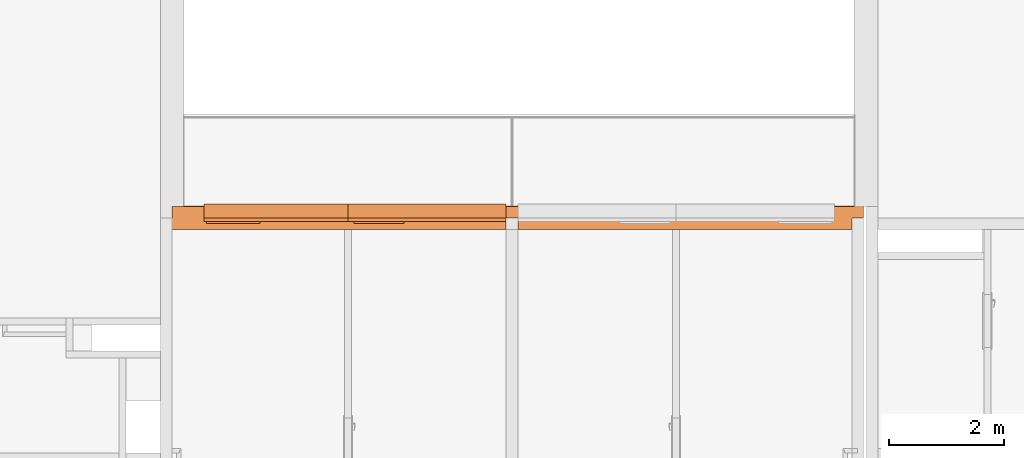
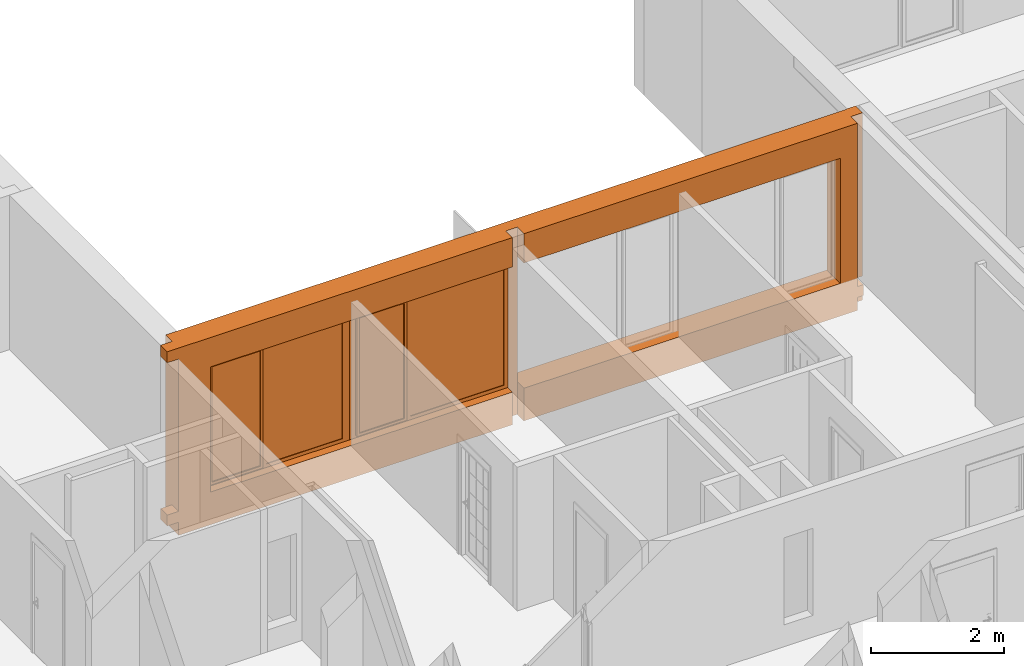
# One storey, part 48 of 67: 3 proxies, 4 openings.
"""IFC2X3 building model written with IfcOpenShell, lengths in millimetres."""

from ifc_helpers import new_model, entity, si_unit, converted_unit, derived_unit, money_unit, direction, frame, origin_with_axes, origin_2d_with_axis, place, context, subcontext, project, spatial, rectangle, extrude, open_shell, faceted_brep, surface_model, source, transform, mapped, material, material_list, type_object, element, fill, save


model = new_model("IFC2X3")

# Units and contexts
model_context = context("Model", 3, precision=0.01, world=origin_with_axes(), true_north=direction((0.34421633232, 0.938890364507)))
body_context = subcontext(model_context, "Body", "Model", "MODEL_VIEW")
ifc_project = project(units=[si_unit("LENGTHUNIT", "METRE", prefix="MILLI"), si_unit("AREAUNIT", "SQUARE_METRE"), si_unit("VOLUMEUNIT", "CUBIC_METRE"), converted_unit("PLANEANGLEUNIT", "DEGREE", entity("IfcPlaneAngleMeasure", 0.0174532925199), si_unit("PLANEANGLEUNIT", "RADIAN"), dimensions=[0, 0, 0, 0, 0, 0, 0]), si_unit("SOLIDANGLEUNIT", "STERADIAN"), money_unit("USD"), converted_unit("TIMEUNIT", "Year", entity("IfcTimeMeasure", 31556926.0), si_unit("TIMEUNIT", "SECOND"), dimensions=[0, 0, 1, 0, 0, 0, 0]), si_unit("MASSUNIT", "GRAM", prefix="KILO"), si_unit("THERMODYNAMICTEMPERATUREUNIT", "DEGREE_CELSIUS"), si_unit("LUMINOUSINTENSITYUNIT", "LUMEN"), si_unit("ENERGYUNIT", "JOULE", prefix="MEGA"), derived_unit("THERMALCONDUCTANCEUNIT", [(si_unit("POWERUNIT", "WATT"), 1), (si_unit("LENGTHUNIT", "METRE"), -1), (si_unit("THERMODYNAMICTEMPERATUREUNIT", "KELVIN"), -1)]), derived_unit("SPECIFICHEATCAPACITYUNIT", [(si_unit("ENERGYUNIT", "JOULE"), 1), (si_unit("MASSUNIT", "GRAM", prefix="KILO"), -1), (si_unit("THERMODYNAMICTEMPERATUREUNIT", "KELVIN"), -1)]), derived_unit("MASSDENSITYUNIT", [(si_unit("MASSUNIT", "GRAM", prefix="KILO"), 1), (si_unit("VOLUMEUNIT", "CUBIC_METRE"), -1)])], contexts=[model_context])

# Site, building, storey
site_placement = place(None, origin_with_axes())
site = spatial("IfcSite", under=ifc_project, at=site_placement, Name="USTRONIE MORSKIE", CompositionType="ELEMENT")
building_placement = place(site_placement, origin_with_axes())
building = spatial("IfcBuilding", under=site, at=building_placement, Name="Budynek", CompositionType="ELEMENT")
storey_placement = place(building_placement, frame((0.0, 0.0, 4000.0), z_axis=(0.0, 0.0, 1.0), x_axis=(1.0, 0.0, 0.0)))
storey = spatial("IfcBuildingStorey", under=building, at=storey_placement, Name="PIĘTRO 1", CompositionType="ELEMENT", Elevation=4000.0)

# Proxies, openings
ifc_material_1 = material(Name="Beton konstrukcyjny B25")
ifc_material_2 = material(Name="Wełna ELEW")
ifc_material_3 = material(Name="Tynk zewnętrzny")
ifc_material_list = material_list([ifc_material_1, ifc_material_2, ifc_material_3])
building_element_proxy_type_1 = type_object("IfcBuildingElementProxyType", Name="20+20 410", PredefinedType="NOTDEFINED")
proxy_1_placement = place(storey_placement, frame((408317.920919, 744701.199322, -600.0), z_axis=(0.0, 0.0, 1.0), x_axis=(-1.0, -2.51059854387e-08, 0.0)))
proxy_1 = element("IfcBuildingElementProxy", 1, at=proxy_1_placement, inside=storey, type_object=building_element_proxy_type_1, material=ifc_material_list, Name="SZ-01", context=body_context, shape_type="Brep", body=[
    faceted_brep([(12100.0000025, 99.9719298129, 3440.0), (6100.00000251, 99.9855996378, 3440.0), (6099.99999749, -100.000153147, 3440.0), (12099.9999975, -100.000303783, 3440.0), (6100.00000251, 99.9855996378, 3240.0), (12100.0001248, 99.9719298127, 3240.0), (11900.0001248, 99.9723854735, 3240.0), (6100.00000251, 99.9998468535, 3240.0), (6100.00000251, 99.9998468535, 440.0), (6100.00000251, 99.9855996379, 440.0), (6100.00000251, 99.9855996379, 240.0), (6100.00000251, 99.9998468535, 240.0), (6100.00000251, 99.9998468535, 0.0), (6099.99999749, -100.000153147, 0.0), (11899.9999975, -100.000298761, 0.0), (11899.9999975, -100.000298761, 240.0), (12099.9999975, -100.000303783, 240.0), (12099.9998752, -100.000303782, 440.0), (11899.9998752, -100.000298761, 440.0), (11899.9998752, -100.000298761, 3240.0), (12099.9998752, -100.000303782, 3240.0), (11900.0001248, 99.9997012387, 3240.0), (11900.0001248, 99.9997012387, 440.0), (11900.0001248, 99.9723854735, 440.0), (11900.0000025, 99.9723854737, 240.0), (12100.0001248, 99.9719298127, 440.0), (12100.0000025, 99.9719298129, 240.0), (11900.0000025, 99.9997012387, 240.0), (11900.0000025, 99.9997012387, 0.0)], [[[0, 1, 2, 3]], [[4, 1, 0, 5, 6]], [[4, 7, 8, 9, 10, 11, 12, 13, 2, 1]], [[13, 14, 15, 16, 17, 18, 19, 20, 3, 2]], [[5, 0, 3, 20]], [[6, 5, 20, 19]], [[7, 4, 6, 21]], [[7, 21, 22, 8]], [[23, 9, 8, 22]], [[24, 10, 9, 23, 25, 26]], [[27, 11, 10, 24]], [[12, 11, 27, 28]], [[28, 14, 13, 12]], [[28, 27, 24, 15, 14]], [[15, 24, 26, 16]], [[16, 26, 25, 17]], [[17, 25, 23, 18]], [[21, 6, 19, 18, 23, 22]]]),
    faceted_brep([(99.9999974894, -100.000002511, 0.0), (5899.99999749, -100.000148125, 0.0), (5899.99999749, -100.000148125, 3440.0), (99.9999974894, -100.000002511, 3440.0), (99.9999974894, -100.000002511, 440.0), (5.27222709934e-06, -100.0, 440.0), (5.27222709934e-06, -100.0, 240.0), (99.9999974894, -100.000002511, 240.0), (5900.00000251, 99.9998518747, 0.0), (100.000002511, 99.9999974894, 0.0), (5900.00000251, 99.9998518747, 3440.0), (100.000002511, 99.9999974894, 3440.0), (100.000002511, 99.9999974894, 440.0), (1.0293433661e-05, 100.0, 440.0), (1.0293433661e-05, 100.0, 240.0), (100.000002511, 99.9999974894, 240.0)], [[[0, 1, 2, 3, 4, 5, 6, 7]], [[8, 1, 0, 9]], [[1, 8, 10, 2]], [[11, 3, 2, 10]], [[11, 12, 4, 3]], [[4, 12, 13, 5]], [[14, 6, 5, 13]], [[14, 15, 7, 6]], [[15, 9, 0, 7]], [[12, 11, 10, 8, 9, 15, 14, 13]]]),
    faceted_brep([(11899.9999925, -300.000298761, 3440.0), (-100.000007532, -299.999997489, 3440.0), (-100.000007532, -299.999997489, 440.0), (2.51020537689e-07, -300.0, 440.0), (2.51020537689e-07, -300.0, 240.0), (-100.000007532, -299.999997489, 240.0), (-100.000007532, -299.999997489, 0.0), (11899.9999925, -300.000298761, 0.0), (-100.000002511, -99.9999974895, 3440.0), (11899.9999975, -100.000298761, 3440.0), (-100.000002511, -99.9999974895, 440.0), (5.27222709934e-06, -100.0, 440.0), (5.27222709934e-06, -100.0, 240.0), (-100.000002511, -99.9999974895, 240.0), (-100.000002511, -99.9999974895, 0.0), (11899.9999975, -100.000298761, 0.0)], [[[0, 1, 2, 3, 4, 5, 6, 7]], [[8, 1, 0, 9]], [[2, 1, 8, 10]], [[10, 11, 3, 2]], [[3, 11, 12, 4]], [[5, 4, 12, 13]], [[13, 14, 6, 5]], [[6, 14, 15, 7]], [[0, 7, 15, 9]], [[10, 8, 9, 15, 14, 13, 12, 11]]]),
    faceted_brep([(11699.9997134, -310.00029374, 3240.0), (49.9999922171, -310.000001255, 3240.0), (49.9999922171, -310.000001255, 3440.0), (-100.000007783, -309.999997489, 3440.0), (-100.000007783, -309.999997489, 440.0), (0.0, -310.0, 440.0), (0.0, -310.0, 240.0), (-100.000007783, -309.999997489, 240.0), (-100.000007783, -309.999997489, 0.0), (11699.9999922, -310.00029374, 0.0), (11699.9999922, -310.00029374, 130.0), (49.9999922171, -310.000001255, 130.0), (49.9999922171, -310.000001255, 330.0), (49.9999922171, -310.000001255, 335.0), (49.9999922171, -310.000001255, 485.0), (49.9999922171, -310.000001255, 545.0), (49.9999922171, -310.000001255, 570.0), (11699.9999922, -310.00029374, 570.0), (11699.9997137, -300.013449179, 3240.0), (49.9999924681, -299.999863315, 3240.0), (49.9999924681, -299.999863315, 3440.0), (-100.000007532, -299.999997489, 3440.0), (-100.000007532, -299.999997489, 440.0), (2.51020537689e-07, -300.0, 440.0), (2.51020537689e-07, -300.0, 240.0), (-100.000007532, -299.999997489, 240.0), (-100.000007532, -299.999997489, 0.0), (11699.9999925, -300.00029374, 0.0), (11699.9999925, -300.000190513, 130.0), (49.9999924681, -300.000001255, 130.0), (49.9999924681, -300.000001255, 330.0), (49.9999924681, -300.000001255, 335.0), (49.9999924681, -300.000001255, 485.0), (49.9999924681, -300.000001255, 545.0), (49.9999924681, -300.000001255, 570.0), (11699.9999925, -300.000190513, 570.0)], [[[0, 1, 2, 3, 4, 5, 6, 7, 8, 9, 10, 11, 12, 13, 14, 15, 16, 17]], [[1, 0, 18, 19]], [[20, 2, 1, 19]], [[2, 20, 21, 3]], [[21, 22, 4, 3]], [[23, 5, 4, 22]], [[24, 6, 5, 23]], [[24, 25, 7, 6]], [[8, 7, 25, 26]], [[27, 9, 8, 26]], [[27, 28, 10, 9]], [[29, 11, 10, 28]], [[30, 12, 11, 29]], [[13, 12, 30, 31]], [[13, 31, 32, 14]], [[32, 33, 15, 14]], [[34, 16, 15, 33]], [[35, 17, 16, 34]], [[18, 0, 17, 35]], [[34, 19, 18]], [[19, 21, 20]], [[21, 23, 22]], [[19, 24, 23]], [[24, 26, 25]], [[26, 29, 27]], [[27, 29, 28]], [[26, 30, 29]], [[26, 31, 30]], [[24, 32, 31]], [[32, 24, 33]], [[33, 24, 34]], [[34, 18, 35]], [[34, 24, 19]], [[19, 23, 21]], [[24, 31, 26]]]),
])
opening_1_placement = place(proxy_1_placement, frame((10100.0109253, 0.0, 600.0), z_axis=(0.0, 0.0, 1.0), x_axis=(1.0, 0.0, 0.0)))
opening_1 = element("IfcOpeningElement", 2, at=opening_1_placement, cuts=proxy_1, Name="Wz.05", context=body_context, shape_type="SweptSolid", body=[
    extrude(rectangle(XDim=2499.99239939, YDim=2300.0, at=origin_2d_with_axis()), frame((5.27228394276e-06, -100.000253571, 1150.0), z_axis=(2.51059854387e-08, 1.0, 0.0), x_axis=(1.0, -2.51059855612e-08, 0.0)), (0.0, 0.0, -1.0), 620.0),
    extrude(rectangle(XDim=2499.99239939, YDim=2300.0, at=origin_2d_with_axis()), frame((5.27228394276e-06, -100.000253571, 1150.0), z_axis=(-2.51059854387e-08, -1.0, 0.0), x_axis=(1.0, -2.51059855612e-08, 0.0)), (0.0, 0.0, -1.0), 610.0),
])
opening_2_placement = place(proxy_1_placement, frame((7475.01115408, 0.0, 600.0), z_axis=(0.0, 0.0, 1.0), x_axis=(1.0, 0.0, 0.0)))
opening_2 = element("IfcOpeningElement", 3, at=opening_2_placement, cuts=proxy_1, Name="Wz.05", context=body_context, shape_type="SweptSolid", body=[
    extrude(rectangle(XDim=2750.00714313, YDim=2300.0, at=origin_2d_with_axis()), frame((5.27222709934e-06, -100.000187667, 1150.0), z_axis=(2.51059854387e-08, 1.0, 0.0), x_axis=(1.0, -2.51059855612e-08, 0.0)), (0.0, 0.0, -1.0), 620.0),
    extrude(rectangle(XDim=2750.00714313, YDim=2300.0, at=origin_2d_with_axis()), frame((5.27222709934e-06, -100.000187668, 1150.0), z_axis=(-2.51059854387e-08, -1.0, 0.0), x_axis=(1.0, -2.51059855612e-08, 0.0)), (0.0, 0.0, -1.0), 610.0),
])
opening_3_placement = place(proxy_1_placement, frame((1774.99280613, 0.0, 600.0), z_axis=(0.0, 0.0, 1.0), x_axis=(1.0, 0.0, 0.0)))
element("IfcOpeningElement", 4, at=opening_3_placement, cuts=proxy_1, Name="Wz.05", context=body_context, shape_type="SweptSolid", body=[
    extrude(rectangle(XDim=2750.0001065, YDim=2300.0, at=origin_2d_with_axis()), frame((5.27222709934e-06, -100.000044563, 1150.0), z_axis=(-2.51059854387e-08, -1.0, 0.0), x_axis=(-1.0, 2.51059855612e-08, 0.0)), (0.0, 0.0, 1.0), 620.0),
    extrude(rectangle(XDim=2750.0001065, YDim=2300.0, at=origin_2d_with_axis()), frame((5.27222709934e-06, -100.000044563, 1150.0), z_axis=(2.51059854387e-08, 1.0, 0.0), x_axis=(-1.0, 2.51059855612e-08, 0.0)), (0.0, 0.0, 1.0), 610.0),
])
opening_4_placement = place(proxy_1_placement, frame((4524.99643095, 0.0, 600.0), z_axis=(0.0, 0.0, 1.0), x_axis=(1.0, 0.0, 0.0)))
element("IfcOpeningElement", 5, at=opening_4_placement, cuts=proxy_1, Name="Wz.05", context=body_context, shape_type="SweptSolid", body=[
    extrude(rectangle(XDim=2750.00714313, YDim=2300.0, at=origin_2d_with_axis()), frame((5.27222709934e-06, -100.000113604, 1150.0), z_axis=(-2.51059854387e-08, -1.0, 0.0), x_axis=(-1.0, 2.51059855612e-08, 0.0)), (0.0, 0.0, 1.0), 620.0),
    extrude(rectangle(XDim=2750.00714313, YDim=2300.0, at=origin_2d_with_axis()), frame((5.27222709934e-06, -100.000113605, 1150.0), z_axis=(2.51059854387e-08, 1.0, 0.0), x_axis=(-1.0, 2.51059855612e-08, 0.0)), (0.0, 0.0, 1.0), 610.0),
])
building_element_proxy_type_2 = type_object("IfcBuildingElementProxyType", Name="Okno podwójne 23", PredefinedType="NOTDEFINED")
shared_shape_1 = source(origin_with_axes(), body_context, "Body", "SurfaceModel", [
    surface_model("IfcShellBasedSurfaceModel", [(-1375.00357156, -61.0, 50.0), (-1375.00357156, -61.0, 40.0), (1375.00357156, -61.0, 40.0), (1375.00357156, -61.0, 50.0), (-1375.00357156, -300.0, 28.5714285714), (1375.00357156, -300.0, 28.5714285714), (-1375.00357156, -300.0, 8.57142857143), (1375.00357156, -300.0, 8.57142857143), (-1375.00357156, -290.0, 18.5714285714), (1375.00357156, -290.0, 18.5714285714)], [open_shell([[[0, 1, 2, 3]], [[1, 4, 5, 2]], [[4, 6, 7, 5]], [[6, 8, 9, 7]]])]),
    faceted_brep([(1250.00357156, -20.0, 2235.0), (1250.00357156, -60.0, 2235.0), (1375.00357156, -60.0, 2235.0), (1375.00357156, 0.0, 2235.0), (1270.00357156, 0.0, 2235.0), (1270.00357156, -20.0, 2235.0), (1250.00357156, -20.0, 65.0), (1250.00357156, -60.0, 65.0), (1375.00357156, -60.0, 65.0), (1375.00357156, 0.0, 65.0), (1270.00357156, 0.0, 65.0), (1270.00357156, -20.0, 65.0)], [[[0, 1, 2, 3, 4, 5]], [[6, 7, 1, 0]], [[8, 2, 1, 7]], [[9, 3, 2, 8]], [[4, 3, 9, 10]], [[10, 11, 5, 4]], [[5, 11, 6, 0]], [[11, 10, 9, 8, 7, 6]]]),
    faceted_brep([(400.003571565, 0.0, 2235.0), (320.003571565, 0.0, 2235.0), (320.003571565, -60.0, 2235.0), (420.003571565, -60.0, 2235.0), (420.003571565, -20.0, 2235.0), (400.003571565, -20.0, 2235.0), (400.003571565, 0.0, 65.0), (320.003571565, 0.0, 65.0), (320.003571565, -60.0, 65.0), (420.003571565, -60.0, 65.0), (420.003571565, -20.0, 65.0), (400.003571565, -20.0, 65.0)], [[[0, 1, 2, 3, 4, 5]], [[6, 7, 1, 0]], [[1, 7, 8, 2]], [[9, 3, 2, 8]], [[4, 3, 9, 10]], [[10, 11, 5, 4]], [[5, 11, 6, 0]], [[11, 10, 9, 8, 7, 6]]]),
    faceted_brep([(1250.00357156, -20.0, 65.0), (1250.00357156, -60.0, 65.0), (1375.00357156, -60.0, 65.0), (1375.00357156, 0.0, 65.0), (1270.00357156, 0.0, 65.0), (1270.00357156, -20.0, 65.0), (420.003571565, -20.0, 65.0), (420.003571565, -60.0, 65.0), (-1375.00357156, -60.0, 65.0), (-1375.00357156, -60.0, 0.0), (1375.00357156, -60.0, 0.0), (320.003571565, -60.0, 65.0), (-1310.00357156, -60.0, 65.0), (1375.00357156, 0.0, 0.0), (400.003571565, 0.0, 45.0), (1270.00357156, 0.0, 45.0), (-1375.00357156, 0.0, 0.0), (-1375.00357156, 0.0, 65.0), (-1310.00357156, 0.0, 65.0), (320.003571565, 0.0, 65.0), (400.003571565, 0.0, 65.0), (1270.00357156, -20.0, 45.0), (400.003571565, -20.0, 45.0), (400.003571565, -20.0, 65.0)], [[[0, 1, 2, 3, 4, 5]], [[6, 7, 1, 0]], [[8, 9, 10, 2, 1, 7, 11, 12]], [[13, 3, 2, 10]], [[14, 15, 4, 3, 13, 16, 17, 18, 19, 20]], [[15, 21, 5, 4]], [[5, 21, 22, 23, 6, 0]], [[23, 20, 19, 11, 7, 6]], [[17, 16, 9, 8]], [[16, 13, 10, 9]], [[19, 18, 12, 11]], [[18, 17, 8, 12]], [[14, 22, 21, 15]], [[23, 22, 14, 20]]]),
    faceted_brep([(400.003571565, 0.0, 2235.0), (320.003571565, 0.0, 2235.0), (-1310.00357156, 0.0, 2235.0), (-1375.00357156, 0.0, 2235.0), (-1375.00357156, 0.0, 2300.0), (1375.00357156, 0.0, 2300.0), (1375.00357156, 0.0, 2235.0), (1270.00357156, 0.0, 2235.0), (1270.00357156, 0.0, 2255.0), (400.003571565, 0.0, 2255.0), (400.003571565, -20.0, 2235.0), (420.003571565, -20.0, 2235.0), (420.003571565, -60.0, 2235.0), (320.003571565, -60.0, 2235.0), (-1310.00357156, -60.0, 2235.0), (-1375.00357156, -60.0, 2235.0), (-1375.00357156, -60.0, 2300.0), (1375.00357156, -60.0, 2300.0), (1375.00357156, -60.0, 2235.0), (1270.00357156, -20.0, 2235.0), (1250.00357156, -60.0, 2235.0), (1250.00357156, -20.0, 2235.0), (1270.00357156, -20.0, 2255.0), (400.003571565, -20.0, 2255.0)], [[[0, 1, 2, 3, 4, 5, 6, 7, 8, 9]], [[10, 11, 12, 13, 1, 0]], [[2, 1, 13, 14]], [[3, 2, 14, 15]], [[4, 3, 15, 16]], [[5, 4, 16, 17]], [[6, 5, 17, 18]], [[19, 7, 6, 18, 20, 21]], [[7, 19, 22, 8]], [[8, 22, 23, 9]], [[9, 23, 10, 0]], [[21, 11, 10, 23, 22, 19]], [[21, 20, 12, 11]], [[12, 20, 18, 17, 16, 15, 14, 13]]]),
    faceted_brep([(-1310.00357156, -60.0, 2235.0), (-1310.00357156, 0.0, 2235.0), (-1375.00357156, 0.0, 2235.0), (-1375.00357156, -60.0, 2235.0), (-1310.00357156, -60.0, 65.0), (-1310.00357156, 0.0, 65.0), (-1375.00357156, 0.0, 65.0), (-1375.00357156, -60.0, 65.0)], [[[0, 1, 2, 3]], [[4, 5, 1, 0]], [[1, 5, 6, 2]], [[3, 2, 6, 7]], [[0, 3, 7, 4]], [[7, 6, 5, 4]]]),
    surface_model("IfcShellBasedSurfaceModel", [(-1310.00357156, -30.0, 65.0), (320.003571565, -30.0, 65.0), (320.003571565, -30.0, 2235.0), (-1310.00357156, -30.0, 2235.0)], [open_shell([[[0, 1, 2, 3]]])]),
    surface_model("IfcShellBasedSurfaceModel", [(-1310.00357156, -10.0, 65.0), (-1310.00357156, -10.0, 2235.0), (320.003571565, -10.0, 2235.0), (320.003571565, -10.0, 65.0)], [open_shell([[[0, 1, 2, 3]]])]),
    faceted_brep([(445.003571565, -20.0, 2210.0), (445.003571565, 40.0, 2210.0), (400.003571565, 40.0, 2210.0), (400.003571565, -20.0, 2210.0), (445.003571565, -20.0, 90.0), (445.003571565, 40.0, 90.0), (400.003571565, 40.0, 90.0), (400.003571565, -20.0, 90.0)], [[[0, 1, 2, 3]], [[4, 5, 1, 0]], [[1, 5, 6, 2]], [[3, 2, 6, 7]], [[0, 3, 7, 4]], [[7, 6, 5, 4]]]),
    faceted_brep([(1225.00357156, -20.0, 90.0), (1225.00357156, 40.0, 90.0), (1270.00357156, 40.0, 90.0), (1270.00357156, -20.0, 90.0), (1225.00357156, -20.0, 2210.0), (1225.00357156, 40.0, 2210.0), (1270.00357156, 40.0, 2210.0), (1270.00357156, -20.0, 2210.0)], [[[0, 1, 2, 3]], [[4, 5, 1, 0]], [[1, 5, 6, 2]], [[3, 2, 6, 7]], [[0, 3, 7, 4]], [[7, 6, 5, 4]]]),
    faceted_brep([(1270.00357156, -20.0, 45.0), (1270.00357156, 40.0, 45.0), (1270.00357156, 40.0, 90.0), (1270.00357156, -20.0, 90.0), (400.003571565, -20.0, 45.0), (400.003571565, 40.0, 45.0), (400.003571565, 40.0, 90.0), (445.003571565, 40.0, 90.0), (1225.00357156, 40.0, 90.0), (1225.00357156, -20.0, 90.0), (445.003571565, -20.0, 90.0), (400.003571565, -20.0, 90.0)], [[[0, 1, 2, 3]], [[4, 5, 1, 0]], [[1, 5, 6, 7, 8, 2]], [[3, 2, 8, 9]], [[0, 3, 9, 10, 11, 4]], [[11, 6, 5, 4]], [[10, 7, 6, 11]], [[9, 8, 7, 10]]]),
    faceted_brep([(400.003571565, -20.0, 2255.0), (400.003571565, 40.0, 2255.0), (400.003571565, 40.0, 2210.0), (400.003571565, -20.0, 2210.0), (1270.00357156, -20.0, 2255.0), (1270.00357156, 40.0, 2255.0), (1270.00357156, 40.0, 2210.0), (1225.00357156, 40.0, 2210.0), (445.003571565, 40.0, 2210.0), (445.003571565, -20.0, 2210.0), (1225.00357156, -20.0, 2210.0), (1270.00357156, -20.0, 2210.0)], [[[0, 1, 2, 3]], [[4, 5, 1, 0]], [[1, 5, 6, 7, 8, 2]], [[3, 2, 8, 9]], [[0, 3, 9, 10, 11, 4]], [[11, 6, 5, 4]], [[10, 7, 6, 11]], [[9, 8, 7, 10]]]),
    surface_model("IfcShellBasedSurfaceModel", [(445.003571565, 0.0, 90.0), (1225.00357156, 0.0, 90.0), (1225.00357156, 0.0, 2210.0), (445.003571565, 0.0, 2210.0)], [open_shell([[[0, 1, 2, 3]]])]),
    surface_model("IfcShellBasedSurfaceModel", [(445.003571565, 20.0, 90.0), (445.003571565, 20.0, 2210.0), (1225.00357156, 20.0, 2210.0), (1225.00357156, 20.0, 90.0)], [open_shell([[[0, 1, 2, 3]]])]),
])
proxy_2_placement = place(opening_2_placement, frame((-1375.00357156, 0.0, 0.0), z_axis=(0.0, 0.0, 1.0), x_axis=(1.0, 0.0, 0.0)))
proxy_2 = element("IfcBuildingElementProxy", 6, at=proxy_2_placement, inside=storey, type_object=building_element_proxy_type_2, Name="Wz.05", context=body_context, shape_type="MappedRepresentation", body=[
    mapped(shared_shape_1, transform((1375.00357834, -40.0001876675, 0.0))),
])
fill(opening_2, proxy_2)
shared_shape_2 = source(origin_with_axes(), body_context, "Body", "SurfaceModel", [
    surface_model("IfcShellBasedSurfaceModel", [(-1249.9961997, -61.0, 50.0), (-1249.9961997, -61.0, 40.0), (1249.9961997, -61.0, 40.0), (1249.9961997, -61.0, 50.0), (-1249.9961997, -300.0, 28.5714285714), (1249.9961997, -300.0, 28.5714285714), (-1249.9961997, -300.0, 8.57142857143), (1249.9961997, -300.0, 8.57142857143), (-1249.9961997, -290.0, 18.5714285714), (1249.9961997, -290.0, 18.5714285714)], [open_shell([[[0, 1, 2, 3]], [[1, 4, 5, 2]], [[4, 6, 7, 5]], [[6, 8, 9, 7]]])]),
    faceted_brep([(1184.9961997, -20.0, 2235.0), (1184.9961997, -60.0, 2235.0), (1249.9961997, -60.0, 2235.0), (1249.9961997, 0.0, 2235.0), (1204.9961997, 0.0, 2235.0), (1204.9961997, -20.0, 2235.0), (1184.9961997, -20.0, 65.0), (1184.9961997, -60.0, 65.0), (1249.9961997, -60.0, 65.0), (1249.9961997, 0.0, 65.0), (1204.9961997, 0.0, 65.0), (1204.9961997, -20.0, 65.0)], [[[0, 1, 2, 3, 4, 5]], [[6, 7, 1, 0]], [[8, 2, 1, 7]], [[9, 3, 2, 8]], [[4, 3, 9, 10]], [[10, 11, 5, 4]], [[5, 11, 6, 0]], [[11, 10, 9, 8, 7, 6]]]),
    faceted_brep([(274.996199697, 0.0, 2235.0), (194.996199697, 0.0, 2235.0), (194.996199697, -60.0, 2235.0), (294.996199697, -60.0, 2235.0), (294.996199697, -20.0, 2235.0), (274.996199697, -20.0, 2235.0), (274.996199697, 0.0, 65.0), (194.996199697, 0.0, 65.0), (194.996199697, -60.0, 65.0), (294.996199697, -60.0, 65.0), (294.996199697, -20.0, 65.0), (274.996199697, -20.0, 65.0)], [[[0, 1, 2, 3, 4, 5]], [[6, 7, 1, 0]], [[1, 7, 8, 2]], [[9, 3, 2, 8]], [[4, 3, 9, 10]], [[10, 11, 5, 4]], [[5, 11, 6, 0]], [[11, 10, 9, 8, 7, 6]]]),
    faceted_brep([(1184.9961997, -20.0, 65.0), (1184.9961997, -60.0, 65.0), (1249.9961997, -60.0, 65.0), (1249.9961997, 0.0, 65.0), (1204.9961997, 0.0, 65.0), (1204.9961997, -20.0, 65.0), (294.996199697, -20.0, 65.0), (294.996199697, -60.0, 65.0), (-1249.9961997, -60.0, 65.0), (-1249.9961997, -60.0, 0.0), (1249.9961997, -60.0, 0.0), (194.996199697, -60.0, 65.0), (-1124.9961997, -60.0, 65.0), (1249.9961997, 0.0, 0.0), (274.996199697, 0.0, 45.0), (1204.9961997, 0.0, 45.0), (-1249.9961997, 0.0, 0.0), (-1249.9961997, 0.0, 65.0), (-1124.9961997, 0.0, 65.0), (194.996199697, 0.0, 65.0), (274.996199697, 0.0, 65.0), (1204.9961997, -20.0, 45.0), (274.996199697, -20.0, 45.0), (274.996199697, -20.0, 65.0)], [[[0, 1, 2, 3, 4, 5]], [[6, 7, 1, 0]], [[8, 9, 10, 2, 1, 7, 11, 12]], [[13, 3, 2, 10]], [[14, 15, 4, 3, 13, 16, 17, 18, 19, 20]], [[15, 21, 5, 4]], [[5, 21, 22, 23, 6, 0]], [[23, 20, 19, 11, 7, 6]], [[17, 16, 9, 8]], [[16, 13, 10, 9]], [[19, 18, 12, 11]], [[18, 17, 8, 12]], [[14, 22, 21, 15]], [[23, 22, 14, 20]]]),
    faceted_brep([(274.996199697, 0.0, 2235.0), (194.996199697, 0.0, 2235.0), (-1124.9961997, 0.0, 2235.0), (-1249.9961997, 0.0, 2235.0), (-1249.9961997, 0.0, 2300.0), (1249.9961997, 0.0, 2300.0), (1249.9961997, 0.0, 2235.0), (1204.9961997, 0.0, 2235.0), (1204.9961997, 0.0, 2255.0), (274.996199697, 0.0, 2255.0), (274.996199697, -20.0, 2235.0), (294.996199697, -20.0, 2235.0), (294.996199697, -60.0, 2235.0), (194.996199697, -60.0, 2235.0), (-1124.9961997, -60.0, 2235.0), (-1249.9961997, -60.0, 2235.0), (-1249.9961997, -60.0, 2300.0), (1249.9961997, -60.0, 2300.0), (1249.9961997, -60.0, 2235.0), (1204.9961997, -20.0, 2235.0), (1184.9961997, -60.0, 2235.0), (1184.9961997, -20.0, 2235.0), (1204.9961997, -20.0, 2255.0), (274.996199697, -20.0, 2255.0)], [[[0, 1, 2, 3, 4, 5, 6, 7, 8, 9]], [[10, 11, 12, 13, 1, 0]], [[2, 1, 13, 14]], [[3, 2, 14, 15]], [[4, 3, 15, 16]], [[5, 4, 16, 17]], [[6, 5, 17, 18]], [[19, 7, 6, 18, 20, 21]], [[7, 19, 22, 8]], [[8, 22, 23, 9]], [[9, 23, 10, 0]], [[21, 11, 10, 23, 22, 19]], [[21, 20, 12, 11]], [[12, 20, 18, 17, 16, 15, 14, 13]]]),
    faceted_brep([(-1124.9961997, -60.0, 2235.0), (-1124.9961997, 0.0, 2235.0), (-1249.9961997, 0.0, 2235.0), (-1249.9961997, -60.0, 2235.0), (-1124.9961997, -60.0, 65.0), (-1124.9961997, 0.0, 65.0), (-1249.9961997, 0.0, 65.0), (-1249.9961997, -60.0, 65.0)], [[[0, 1, 2, 3]], [[4, 5, 1, 0]], [[1, 5, 6, 2]], [[3, 2, 6, 7]], [[0, 3, 7, 4]], [[7, 6, 5, 4]]]),
    surface_model("IfcShellBasedSurfaceModel", [(-1124.9961997, -30.0, 65.0), (194.996199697, -30.0, 65.0), (194.996199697, -30.0, 2235.0), (-1124.9961997, -30.0, 2235.0)], [open_shell([[[0, 1, 2, 3]]])]),
    surface_model("IfcShellBasedSurfaceModel", [(-1124.9961997, -10.0, 65.0), (-1124.9961997, -10.0, 2235.0), (194.996199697, -10.0, 2235.0), (194.996199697, -10.0, 65.0)], [open_shell([[[0, 1, 2, 3]]])]),
    faceted_brep([(319.996199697, -20.0, 2210.0), (319.996199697, 40.0, 2210.0), (274.996199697, 40.0, 2210.0), (274.996199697, -20.0, 2210.0), (319.996199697, -20.0, 90.0), (319.996199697, 40.0, 90.0), (274.996199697, 40.0, 90.0), (274.996199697, -20.0, 90.0)], [[[0, 1, 2, 3]], [[4, 5, 1, 0]], [[1, 5, 6, 2]], [[3, 2, 6, 7]], [[0, 3, 7, 4]], [[7, 6, 5, 4]]]),
    faceted_brep([(1159.9961997, -20.0, 90.0), (1159.9961997, 40.0, 90.0), (1204.9961997, 40.0, 90.0), (1204.9961997, -20.0, 90.0), (1159.9961997, -20.0, 2210.0), (1159.9961997, 40.0, 2210.0), (1204.9961997, 40.0, 2210.0), (1204.9961997, -20.0, 2210.0)], [[[0, 1, 2, 3]], [[4, 5, 1, 0]], [[1, 5, 6, 2]], [[3, 2, 6, 7]], [[0, 3, 7, 4]], [[7, 6, 5, 4]]]),
    faceted_brep([(1204.9961997, -20.0, 45.0), (1204.9961997, 40.0, 45.0), (1204.9961997, 40.0, 90.0), (1204.9961997, -20.0, 90.0), (274.996199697, -20.0, 45.0), (274.996199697, 40.0, 45.0), (274.996199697, 40.0, 90.0), (319.996199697, 40.0, 90.0), (1159.9961997, 40.0, 90.0), (1159.9961997, -20.0, 90.0), (319.996199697, -20.0, 90.0), (274.996199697, -20.0, 90.0)], [[[0, 1, 2, 3]], [[4, 5, 1, 0]], [[1, 5, 6, 7, 8, 2]], [[3, 2, 8, 9]], [[0, 3, 9, 10, 11, 4]], [[11, 6, 5, 4]], [[10, 7, 6, 11]], [[9, 8, 7, 10]]]),
    faceted_brep([(274.996199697, -20.0, 2255.0), (274.996199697, 40.0, 2255.0), (274.996199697, 40.0, 2210.0), (274.996199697, -20.0, 2210.0), (1204.9961997, -20.0, 2255.0), (1204.9961997, 40.0, 2255.0), (1204.9961997, 40.0, 2210.0), (1159.9961997, 40.0, 2210.0), (319.996199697, 40.0, 2210.0), (319.996199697, -20.0, 2210.0), (1159.9961997, -20.0, 2210.0), (1204.9961997, -20.0, 2210.0)], [[[0, 1, 2, 3]], [[4, 5, 1, 0]], [[1, 5, 6, 7, 8, 2]], [[3, 2, 8, 9]], [[0, 3, 9, 10, 11, 4]], [[11, 6, 5, 4]], [[10, 7, 6, 11]], [[9, 8, 7, 10]]]),
    surface_model("IfcShellBasedSurfaceModel", [(319.996199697, 0.0, 90.0), (1159.9961997, 0.0, 90.0), (1159.9961997, 0.0, 2210.0), (319.996199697, 0.0, 2210.0)], [open_shell([[[0, 1, 2, 3]]])]),
    surface_model("IfcShellBasedSurfaceModel", [(319.996199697, 20.0, 90.0), (319.996199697, 20.0, 2210.0), (1159.9961997, 20.0, 2210.0), (1159.9961997, 20.0, 90.0)], [open_shell([[[0, 1, 2, 3]]])]),
])
proxy_3_placement = place(opening_1_placement, frame((-1249.9961997, 1.13686837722e-10, 0.0), z_axis=(0.0, 0.0, 1.0), x_axis=(1.0, 0.0, 0.0)))
proxy_3 = element("IfcBuildingElementProxy", 7, at=proxy_3_placement, inside=storey, type_object=building_element_proxy_type_2, Name="Wz.05", context=body_context, shape_type="MappedRepresentation", body=[
    mapped(shared_shape_2, transform((1249.99620648, -40.0002535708, 0.0))),
])
fill(opening_1, proxy_3)

save(model, "model.ifc")
